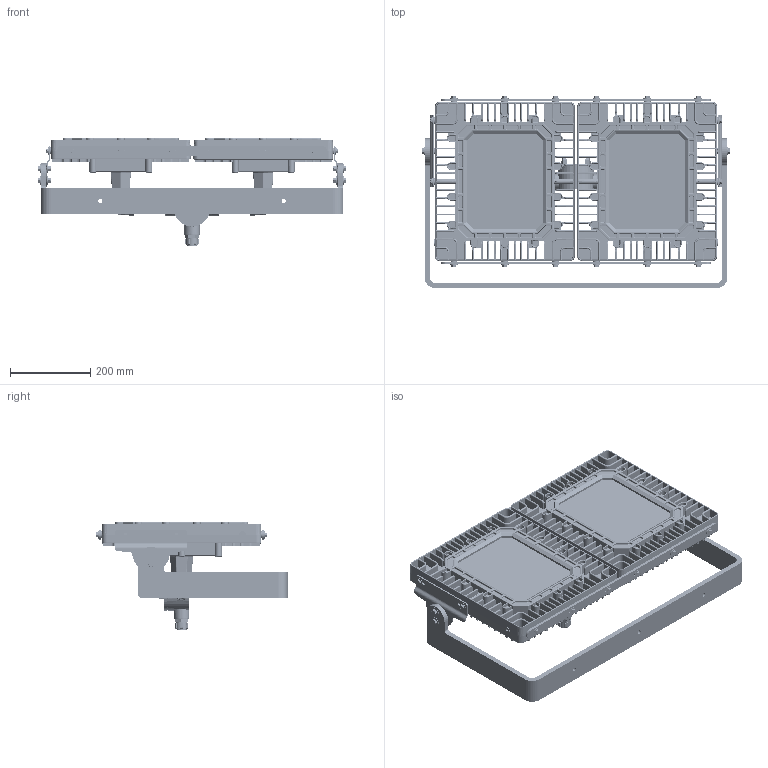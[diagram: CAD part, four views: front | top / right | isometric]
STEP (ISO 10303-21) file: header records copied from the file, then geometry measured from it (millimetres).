
FILE_DESCRIPTION (( 'STEP AP214' ), '1' );
FILE_NAME ('EPLC2-LED-2X150W-RT.STEP', '2016-10-04T18:55:18', ( '' ), ( '' ), 'SwSTEP 2.0', 'SolidWorks 2016', '' );
FILE_SCHEMA (( 'AUTOMOTIVE_DESIGN' ));
Length unit declared in the file: inch
Products named in the file (15): hex bolt_ai_HBOLT 0.3125-18x1.125x0.875-N; Double Spongebob Bracket; hex nut_ai_HNUT 0.3125-18-D-N; flat washer type b regular_ai_Regular FW 0.3125; hex bolt_ai_HBOLT 0.2500-20x0.75x0.75-N; flat washer type b regular_ai_Regular FW 0.25; EPL-HB-150LED-RT bracket short; EPL-HB-150LED-RT Base; 4830K196_4830K196; 4464K150_4464K15; 1.215 cord grip; .75 x 1.5 nipple; 3 way .75; Double Spongebob P Bracket; EPLC2-LED-2X150W-RT
Assembly tree (63 placements, depth 2):
  EPLC2-LED-2X150W-RT
    Double Spongebob P Bracket
    3 way .75
    .75 x 1.5 nipple  x2
    1.215 cord grip
    4464K150_4464K15  x2
    4830K196_4830K196  x2
    EPL-HB-150LED-RT Base  x2
    EPL-HB-150LED-RT bracket short  x2
    flat washer type b regular_ai_Regular FW 0.25  x16
    hex bolt_ai_HBOLT 0.2500-20x0.75x0.75-N  x16
    flat washer type b regular_ai_Regular FW 0.3125  x8
    hex nut_ai_HNUT 0.3125-18-D-N  x4
    hex bolt_ai_HBOLT 0.3125-18x1.125x0.875-N  x4
    Double Spongebob Bracket  x2
Bounding box: 770.79 x 478.58 x 269.49 mm (x, y, z)
Volume: 12794971.9 mm3; surface area: 2185503.5 mm2
Topology: 63 solids, 63 shells, 6190 faces, 16061 edges, 9928 vertices
Faces by surface type: plane 2635, cylinder 2289, torus 704, cone 422, bspline 140
Entity records: 119040 total; most frequent: CARTESIAN_POINT 46771, ORIENTED_EDGE 15428, DIRECTION 14677, EDGE_CURVE 7714, AXIS2_PLACEMENT_3D 5148, VERTEX_POINT 4779, VECTOR 4381, LINE 4381
